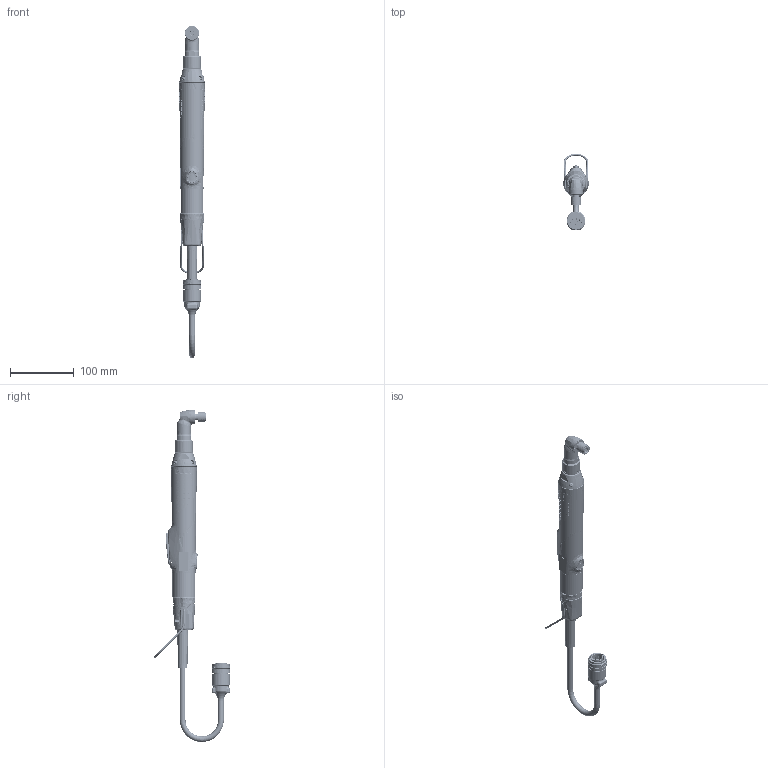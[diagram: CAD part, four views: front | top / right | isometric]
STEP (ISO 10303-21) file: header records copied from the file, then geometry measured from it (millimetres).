
FILE_DESCRIPTION((''),'2;1');
FILE_NAME('6151656980_ASM','2011-01-28T',('GREPH'),(''),'PRO/ENGINEER BY PARAMETRIC TECHNOLOGY CORPORATION, 2010330','PRO/ENGINEER BY PARAMETRIC TECHNOLOGY CORPORATION, 2010330','');
FILE_SCHEMA(('AUTOMOTIVE_DESIGN_CC2 { 1 2 10303 214 -1 1 5 2 }'));
Products named in the file (37): 6155961650; 6153942780_ASM; 6155653571; BE23262; 6155653570_ASM; 6153100551; 6153100550_ASM; 6153100540; 6153969870_ASM; 6158729940; 6153969480_ASM; 6155653750; 6155961082; 0516420900; 6155961080_ASM; 4220337635; 4210232600_MED; 4210189400_OLD; 0335351004_SPEC1; 4210232680_ASM; 0516402000; 4210386000; 6153968620_ASM; 6155671300; 6156100830; 6155653590; 6153969490_ASM; 6155653600; 6155953210; 6159175311; CONNECTEUR12PTS_ECS; 6159160240; 6159175320_ASM; 6155653580; 6158728700; 2050495373; 6151656980_ASM
Assembly tree (39 placements, depth 4):
  6151656980_ASM
    6153942780_ASM
      6155961650
    6153969480_ASM
      6155653570_ASM
        6155653571
        BE23262
      6153100550_ASM
        6153100551
      6153969870_ASM
        6153100540
      6158729940
    6155653750
    6153968620_ASM
      6155961080_ASM
        6155961082
        0516420900
      4220337635
      4210232680_ASM
        4210232600_MED
        4210189400_OLD
        0335351004_SPEC1
      0516402000
      4210386000
    6155671300
    6156100830  x4
    6153969490_ASM
      6155653590
    6155653600
    6159175320_ASM
      6155953210
      6159175311
      CONNECTEUR12PTS_ECS
      6159160240
    6155653580
    6158728700
    2050495373
Bounding box: 40.4 x 120.13 x 521.2 mm (x, y, z)
Volume: 167037.5 mm3; surface area: 177153.8 mm2
Topology: 31 solids, 72 shells, 8754 faces, 22561 edges, 14269 vertices
Faces by surface type: plane 3600, cylinder 1819, extrusion 1002, bspline 897, cone 868, torus 345, revolution 154, sphere 69
Entity records: 364448 total; most frequent: CARTESIAN_POINT 119847, ORIENTED_EDGE 44348, DIRECTION 33935, EDGE_CURVE 22224, VERTEX_POINT 14097, PRESENTATION_STYLE_ASSIGNMENT 13909, STYLED_ITEM 13362, CURVE_STYLE 12279
